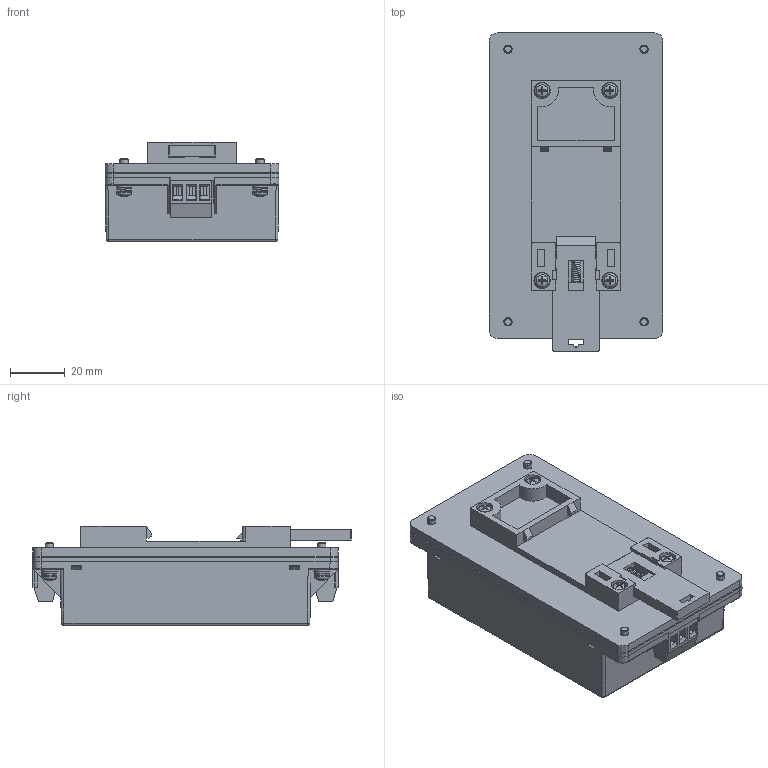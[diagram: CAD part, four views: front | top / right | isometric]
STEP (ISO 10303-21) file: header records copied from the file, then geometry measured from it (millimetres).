
FILE_DESCRIPTION(/* description */ (''),/* implementation_level */ '2;1');
FILE_NAME(/* name */ 'C:\Users\Calliope\Desktop\XP Power 3D Drawings (STEP file)\DTE40-D.stp',/* time_stamp */ '2017-11-03T13:54:48+08:00',/* author */ ('Calliope'),/* organization */ (''),/* preprocessor_version */ 'ST-DEVELOPER v15.6',/* originating_system */ 'Autodesk Inventor 2015',/* authorisation */ '');
FILE_SCHEMA (('AUTOMOTIVE_DESIGN { 1 0 10303 214 3 1 1 }'));
Length unit declared in the file: millimetre
Products named in the file (1): MQWI40+Din Rail
Bounding box: 63.8 x 116.71 x 36.6 mm (x, y, z)
Volume: 155607.8 mm3; surface area: 50934.1 mm2
Topology: 6 solids, 6 shells, 1072 faces, 2894 edges, 1867 vertices
Faces by surface type: plane 689, cylinder 180, cone 96, torus 52, bspline 41, sphere 14
Full cylindrical faces by diameter (mm): 1.3 x4, 1.5 x2, 1.8 x1, 2.729 x8, 2.8 x8, 3 x4, 3.4 x2, 3.5 x12, 4 x8, 4.08 x5, 5 x1, 5.5 x4, 5.8 x8, 6 x4, 8 x1
Entity records: 36631 total; most frequent: CARTESIAN_POINT 10302, ORIENTED_EDGE 5476, DIRECTION 5091, EDGE_CURVE 2738, LINE 1903, VECTOR 1903, VERTEX_POINT 1832, AXIS2_PLACEMENT_3D 1594
